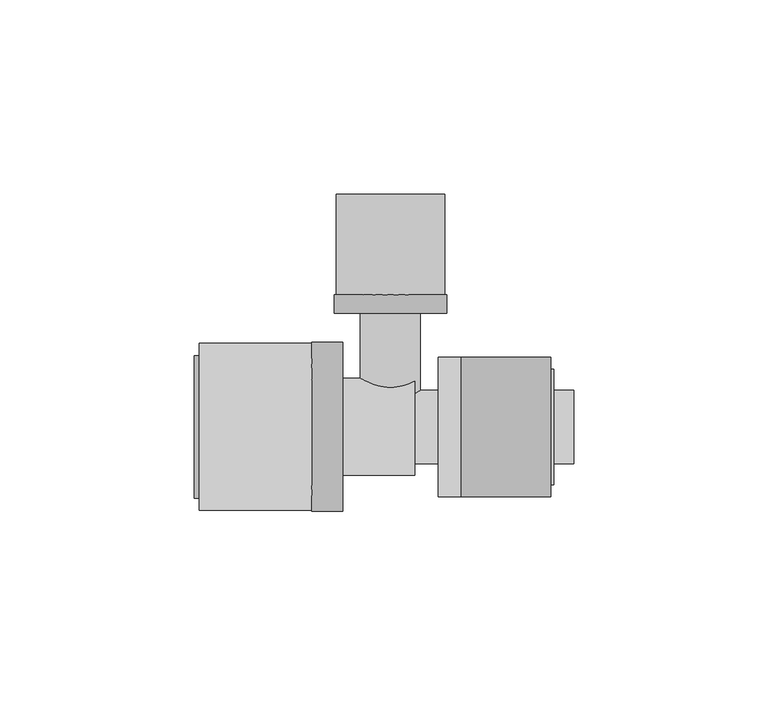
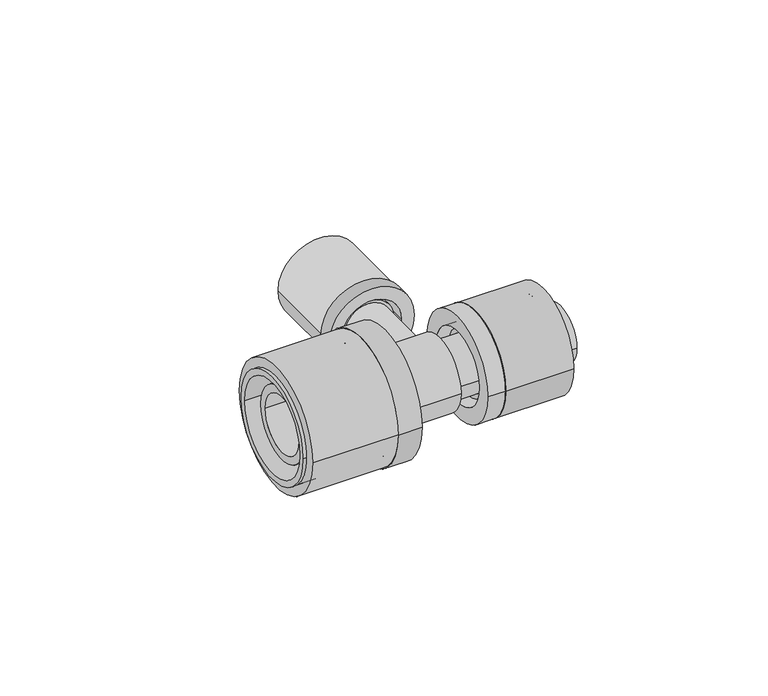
"""IFC4 building model written with IfcOpenShell, lengths in millimetres: pipe fitting geometry, FASTLOC_T-piece_LX : FSL T-Piece LX CZ."""

from ifc_helpers import new_model, si_unit, point, frame, origin, origin_2d, place, context, project, spatial, polyline, circle_curve, trimmed, segment, composite_curve, outline, extrude, source, transform, mapped, element, save
from ifc_brep_helpers import plane_surface, cylinder_surface, revolved_surface, advanced_brep


def pipe_fitting_f2600fd0(model_context):
    return source(origin(), model_context, "Body", "SolidModel", [
        extrude(outline(composite_curve([segment(trimmed(circle_curve(origin_2d(), 18.0), [point((-18.0, 0.0))], [point((18.0, 0.0))], False, "CARTESIAN"), True, "CONTINUOUS"), segment(trimmed(circle_curve(origin_2d(), 18.0), [point((18.0, 0.0))], [point((-18.0, 0.0))], False, "CARTESIAN"), True, "CONTINUOUS")], self_intersect=False), holes=[composite_curve([segment(trimmed(circle_curve(origin_2d(), 13.5), [point((-13.5, 0.0))], [point((13.5, 0.0))], True, "CARTESIAN"), True, "CONTINUOUS"), segment(trimmed(circle_curve(origin_2d(), 13.5), [point((13.5, 0.0))], [point((-13.5, 0.0))], True, "CARTESIAN"), True, "CONTINUOUS")], self_intersect=False)]), frame((18.3, 0.0, 0.0), z_axis=(1.0, 0.0, 0.0), x_axis=(0.0, 1.0, 0.0)), (0.0, 0.0, 1.0), 23.0),
        advanced_brep(
        [(18.3, 18.0, 0.0), (18.3, -18.0, 0.0), (12.3, -18.0, 0.0), (12.3, 18.0, 0.0), (42.1, 14.85, 0.0), (42.1, -14.85, 0.0), (18.3, -14.85, 0.0), (18.3, 14.85, 0.0), (12.3, 12.65, 0.0), (12.3, -12.65, 0.0), (42.1, -12.65, 0.0), (42.1, 12.65, 0.0)],
        [
            (0, 1, circle_curve(frame((18.3, 0.0, 0.0), z_axis=(-1.0, 0.0, 0.0), x_axis=(0.0, -1.0, 0.0)), 18.0)),
            (1, 2),
            (2, 3, circle_curve(frame((12.3, 0.0, 0.0), z_axis=(1.0, 0.0, 0.0), x_axis=(0.0, -1.0, 0.0)), 18.0)),
            (3, 0),
            (4, 5, circle_curve(frame((42.1, 0.0, 0.0), z_axis=(-1.0, 0.0, 0.0), x_axis=(0.0, -1.0, 0.0)), 14.85)),
            (5, 6),
            (6, 7, circle_curve(frame((18.3, 0.0, 0.0), z_axis=(1.0, 0.0, 0.0), x_axis=(0.0, -1.0, 0.0)), 14.85)),
            (7, 4),
            (8, 9, circle_curve(frame((12.3, 0.0, 0.0), z_axis=(-1.0, 0.0, 0.0), x_axis=(0.0, -1.0, 0.0)), 12.65)),
            (9, 10),
            (10, 11, circle_curve(frame((42.1, 0.0, 0.0), z_axis=(1.0, 0.0, 0.0), x_axis=(0.0, -1.0, 0.0)), 12.65)),
            (11, 8),
            (1, 0, circle_curve(frame((18.3, 0.0, 0.0), z_axis=(-1.0, 0.0, 0.0), x_axis=(0.0, 1.0, 0.0)), 18.0)),
            (3, 2, circle_curve(frame((12.3, 0.0, 0.0), z_axis=(1.0, 0.0, 0.0), x_axis=(0.0, 1.0, 0.0)), 18.0)),
            (6, 7, circle_curve(frame((18.3, 0.0, 0.0), z_axis=(-1.0, 0.0, 0.0), x_axis=(0.0, 1.0, 0.0)), 14.85)),
            (5, 4, circle_curve(frame((42.1, 0.0, 0.0), z_axis=(-1.0, 0.0, 0.0), x_axis=(0.0, 1.0, 0.0)), 14.85)),
            (10, 11, circle_curve(frame((42.1, 0.0, 0.0), z_axis=(-1.0, 0.0, 0.0), x_axis=(0.0, 1.0, 0.0)), 12.65)),
            (9, 8, circle_curve(frame((12.3, 0.0, 0.0), z_axis=(-1.0, 0.0, 0.0), x_axis=(0.0, 1.0, 0.0)), 12.65)),
        ],
        [
            cylinder_surface(frame((12.3, 0.0, 0.0), z_axis=(1.0, 0.0, 0.0), x_axis=(0.0, -1.0, 0.0)), 18.0),
            cylinder_surface(frame((12.3, 0.0, 0.0), z_axis=(1.0, 0.0, 0.0), x_axis=(0.0, -1.0, 0.0)), 14.85),
            revolved_surface(polyline([(42.1, -12.65, 0.0), (12.3, -12.65, 0.0)]), (12.3, 0.0, 0.0), (1.0, 0.0, 0.0)),
            cylinder_surface(frame((12.3, 0.0, 0.0), z_axis=(1.0, 0.0, 0.0), x_axis=(0.0, 1.0, 0.0)), 18.0),
            plane_surface(frame((18.3, 0.0, 0.0), z_axis=(1.0, 0.0, 0.0), x_axis=(0.0, 1.0, 0.0))),
            cylinder_surface(frame((12.3, 0.0, 0.0), z_axis=(1.0, 0.0, 0.0), x_axis=(0.0, 1.0, 0.0)), 14.85),
            plane_surface(frame((42.1, 0.0, 0.0), z_axis=(1.0, 0.0, 0.0), x_axis=(0.0, 1.0, 0.0))),
            revolved_surface(polyline([(42.1, 12.65, 0.0), (12.3, 12.65, 0.0)]), (12.3, 0.0, 0.0), (1.0, 0.0, 0.0)),
            plane_surface(frame((12.3, 0.0, 0.0), z_axis=(-1.0, 0.0, 0.0), x_axis=(0.0, 1.0, 0.0))),
        ],
        [
            (0, [[1, 2, 3, 4]]),
            (1, [[5, 6, 7, 8]]),
            (2, [[9, 10, 11, 12]]),
            (3, [[13, -4, 14, -2]]),
            (4, [[-13, -1], [15, -7]]),
            (5, [[16, -8, -15, -6]]),
            (6, [[-16, -5], [17, -11]]),
            (7, [[18, -12, -17, -10]]),
            (8, [[-14, -3], [-18, -9]]),
        ],
    ),
        extrude(outline(composite_curve([segment(trimmed(circle_curve(origin_2d(), 21.5), [point((21.5, 0.0))], [point((-21.5, 0.0))], False, "CARTESIAN"), True, "CONTINUOUS"), segment(trimmed(circle_curve(origin_2d(), 21.5), [point((-21.5, 0.0))], [point((21.5, 0.0))], False, "CARTESIAN"), True, "CONTINUOUS")], self_intersect=False), holes=[composite_curve([segment(trimmed(circle_curve(origin_2d(), 16.85), [point((16.85, 0.0))], [point((-16.85, 0.0))], True, "CARTESIAN"), True, "CONTINUOUS"), segment(trimmed(circle_curve(origin_2d(), 16.85), [point((-16.85, 0.0))], [point((16.85, 0.0))], True, "CARTESIAN"), True, "CONTINUOUS")], self_intersect=False)]), frame((-49.3, 0.0, 0.0), z_axis=(1.0, 0.0, 0.0), x_axis=(0.0, 1.0, 0.0)), (0.0, 0.0, 1.0), 29.0),
        advanced_brep(
        [(-20.3, -21.8, 0.0), (-20.3, 21.8, 0.0), (-12.3, 21.8, 0.0), (-12.3, -21.8, 0.0), (-50.6, -18.35, 0.0), (-50.6, 18.35, 0.0), (-20.3, 18.35, 0.0), (-20.3, -18.35, 0.0), (-12.3, -16.2, 0.0), (-12.3, 16.2, 0.0), (-50.6, 16.2, 0.0), (-50.6, -16.2, 0.0)],
        [
            (0, 1, circle_curve(frame((-20.3, 0.0, 0.0), z_axis=(1.0, 0.0, 0.0), x_axis=(0.0, 1.0, 0.0)), 21.8)),
            (1, 2),
            (2, 3, circle_curve(frame((-12.3, 0.0, 0.0), z_axis=(-1.0, 0.0, 0.0), x_axis=(0.0, 1.0, 0.0)), 21.8)),
            (3, 0),
            (4, 5, circle_curve(frame((-50.6, 0.0, 0.0), z_axis=(1.0, 0.0, 0.0), x_axis=(0.0, 1.0, 0.0)), 18.35)),
            (5, 6),
            (6, 7, circle_curve(frame((-20.3, 0.0, 0.0), z_axis=(-1.0, 0.0, 0.0), x_axis=(0.0, 1.0, 0.0)), 18.35)),
            (7, 4),
            (8, 9, circle_curve(frame((-12.3, 0.0, 0.0), z_axis=(1.0, 0.0, 0.0), x_axis=(0.0, 1.0, 0.0)), 16.2)),
            (9, 10),
            (10, 11, circle_curve(frame((-50.6, 0.0, 0.0), z_axis=(-1.0, 0.0, 0.0), x_axis=(0.0, 1.0, 0.0)), 16.2)),
            (11, 8),
            (1, 0, circle_curve(frame((-20.3, 0.0, 0.0), z_axis=(1.0, 0.0, 0.0), x_axis=(0.0, -1.0, 0.0)), 21.8)),
            (3, 2, circle_curve(frame((-12.3, 0.0, 0.0), z_axis=(-1.0, 0.0, 0.0), x_axis=(0.0, -1.0, 0.0)), 21.8)),
            (6, 7, circle_curve(frame((-20.3, 0.0, 0.0), z_axis=(1.0, 0.0, 0.0), x_axis=(0.0, -1.0, 0.0)), 18.35)),
            (5, 4, circle_curve(frame((-50.6, 0.0, 0.0), z_axis=(1.0, 0.0, 0.0), x_axis=(0.0, -1.0, 0.0)), 18.35)),
            (10, 11, circle_curve(frame((-50.6, 0.0, 0.0), z_axis=(1.0, 0.0, 0.0), x_axis=(0.0, -1.0, 0.0)), 16.2)),
            (9, 8, circle_curve(frame((-12.3, 0.0, 0.0), z_axis=(1.0, 0.0, 0.0), x_axis=(0.0, -1.0, 0.0)), 16.2)),
        ],
        [
            cylinder_surface(frame((-12.3, 0.0, 0.0), z_axis=(-1.0, 0.0, 0.0), x_axis=(0.0, 1.0, 0.0)), 21.8),
            cylinder_surface(frame((-12.3, 0.0, 0.0), z_axis=(-1.0, 0.0, 0.0), x_axis=(0.0, 1.0, 0.0)), 18.35),
            revolved_surface(polyline([(-50.599999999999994, 16.2, 0.0), (-12.3, 16.2, 0.0)]), (-12.3, 0.0, 0.0), (-1.0, 0.0, 0.0)),
            cylinder_surface(frame((-12.3, 0.0, 0.0), z_axis=(-1.0, 0.0, 0.0), x_axis=(0.0, -1.0, 0.0)), 21.8),
            plane_surface(frame((-20.3, 0.0, 0.0), z_axis=(-1.0, 0.0, 0.0), x_axis=(0.0, -1.0, 0.0))),
            cylinder_surface(frame((-12.3, 0.0, 0.0), z_axis=(-1.0, 0.0, 0.0), x_axis=(0.0, -1.0, 0.0)), 18.35),
            plane_surface(frame((-50.6, 0.0, 0.0), z_axis=(-1.0, 0.0, 0.0), x_axis=(0.0, -1.0, 0.0))),
            revolved_surface(polyline([(-50.599999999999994, -16.2, 0.0), (-12.3, -16.2, 0.0)]), (-12.3, 0.0, 0.0), (-1.0, 0.0, 0.0)),
            plane_surface(frame((-12.3, 0.0, 0.0), z_axis=(1.0, 0.0, 0.0), x_axis=(0.0, -1.0, 0.0))),
        ],
        [
            (0, [[1, 2, 3, 4]]),
            (1, [[5, 6, 7, 8]]),
            (2, [[9, 10, 11, 12]]),
            (3, [[13, -4, 14, -2]]),
            (4, [[-13, -1], [15, -7]]),
            (5, [[16, -8, -15, -6]]),
            (6, [[-16, -5], [17, -11]]),
            (7, [[18, -12, -17, -10]]),
            (8, [[-14, -3], [-18, -9]]),
        ],
    ),
        extrude(outline(composite_curve([segment(trimmed(circle_curve(origin_2d(), 14.0), [point((0.0, 14.0))], [point((0.0, -14.0))], False, "CARTESIAN"), True, "CONTINUOUS"), segment(trimmed(circle_curve(origin_2d(), 14.0), [point((0.0, -14.0))], [point((0.0, 14.0))], False, "CARTESIAN"), True, "CONTINUOUS")], self_intersect=False), holes=[composite_curve([segment(trimmed(circle_curve(origin_2d(), 10.7), [point((0.0, 10.7))], [point((0.0, -10.7))], True, "CARTESIAN"), True, "CONTINUOUS"), segment(trimmed(circle_curve(origin_2d(), 10.7), [point((0.0, -10.7))], [point((0.0, 10.7))], True, "CARTESIAN"), True, "CONTINUOUS")], self_intersect=False)]), frame((0.0, 34.0, 0.0), z_axis=(0.0, 1.0, 0.0), x_axis=(0.0, 0.0, 1.0)), (0.0, 0.0, 1.0), 26.0),
        advanced_brep(
        [(-14.5, 34.0, 0.0), (14.5, 34.0, 0.0), (14.5, 29.3, 0.0), (-14.5, 29.3, 0.0), (-11.85, 51.0, 0.0), (11.85, 51.0, 0.0), (11.85, 34.0, 0.0), (-11.85, 34.0, 0.0), (-10.15, 29.3, 0.0), (10.15, 29.3, 0.0), (10.15, 51.0, 0.0), (-10.15, 51.0, 0.0)],
        [
            (0, 1, circle_curve(frame((0.0, 34.0, 0.0), z_axis=(0.0, -1.0, 0.0), x_axis=(1.0, 0.0, 0.0)), 14.5)),
            (1, 2),
            (2, 3, circle_curve(frame((0.0, 29.3, 0.0), z_axis=(0.0, 1.0, 0.0), x_axis=(1.0, 0.0, 0.0)), 14.5)),
            (3, 0),
            (4, 5, circle_curve(frame((0.0, 51.0, 0.0), z_axis=(0.0, -1.0, 0.0), x_axis=(1.0, 0.0, 0.0)), 11.85)),
            (5, 6),
            (6, 7, circle_curve(frame((0.0, 34.0, 0.0), z_axis=(0.0, 1.0, 0.0), x_axis=(1.0, 0.0, 0.0)), 11.85)),
            (7, 4),
            (8, 9, circle_curve(frame((0.0, 29.3, 0.0), z_axis=(0.0, -1.0, 0.0), x_axis=(1.0, 0.0, 0.0)), 10.15)),
            (9, 10),
            (10, 11, circle_curve(frame((0.0, 51.0, 0.0), z_axis=(0.0, 1.0, 0.0), x_axis=(1.0, 0.0, 0.0)), 10.15)),
            (11, 8),
            (1, 0, circle_curve(frame((0.0, 34.0, 0.0), z_axis=(0.0, -1.0, 0.0), x_axis=(-1.0, 0.0, 0.0)), 14.5)),
            (3, 2, circle_curve(frame((0.0, 29.3, 0.0), z_axis=(0.0, 1.0, 0.0), x_axis=(-1.0, 0.0, 0.0)), 14.5)),
            (6, 7, circle_curve(frame((0.0, 34.0, 0.0), z_axis=(0.0, -1.0, 0.0), x_axis=(-1.0, 0.0, 0.0)), 11.85)),
            (5, 4, circle_curve(frame((0.0, 51.0, 0.0), z_axis=(0.0, -1.0, 0.0), x_axis=(-1.0, 0.0, 0.0)), 11.85)),
            (10, 11, circle_curve(frame((0.0, 51.0, 0.0), z_axis=(0.0, -1.0, 0.0), x_axis=(-1.0, 0.0, 0.0)), 10.15)),
            (9, 8, circle_curve(frame((0.0, 29.3, 0.0), z_axis=(0.0, -1.0, 0.0), x_axis=(-1.0, 0.0, 0.0)), 10.15)),
        ],
        [
            cylinder_surface(frame((0.0, 29.3, 0.0), z_axis=(0.0, 1.0, 0.0), x_axis=(1.0, 0.0, 0.0)), 14.5),
            cylinder_surface(frame((0.0, 29.3, 0.0), z_axis=(0.0, 1.0, 0.0), x_axis=(1.0, 0.0, 0.0)), 11.85),
            revolved_surface(polyline([(10.15, 51.0, 0.0), (10.15, 29.3, 0.0)]), (0.0, 29.3, 0.0), (0.0, 1.0, 0.0)),
            cylinder_surface(frame((0.0, 29.3, 0.0), z_axis=(0.0, 1.0, 0.0), x_axis=(-1.0, 0.0, 0.0)), 14.5),
            plane_surface(frame((0.0, 34.0, 0.0), z_axis=(0.0, 1.0, 0.0), x_axis=(-1.0, 0.0, 0.0))),
            cylinder_surface(frame((0.0, 29.3, 0.0), z_axis=(0.0, 1.0, 0.0), x_axis=(-1.0, 0.0, 0.0)), 11.85),
            plane_surface(frame((0.0, 51.0, 0.0), z_axis=(0.0, 1.0, 0.0), x_axis=(-1.0, 0.0, 0.0))),
            revolved_surface(polyline([(-10.15, 51.0, 0.0), (-10.15, 29.3, 0.0)]), (0.0, 29.3, 0.0), (0.0, 1.0, 0.0)),
            plane_surface(frame((0.0, 29.3, 0.0), z_axis=(0.0, -1.0, 0.0), x_axis=(-1.0, 0.0, 0.0))),
        ],
        [
            (0, [[1, 2, 3, 4]]),
            (1, [[5, 6, 7, 8]]),
            (2, [[9, 10, 11, 12]]),
            (3, [[13, -4, 14, -2]]),
            (4, [[-13, -1], [15, -7]]),
            (5, [[16, -8, -15, -6]]),
            (6, [[-16, -5], [17, -11]]),
            (7, [[18, -12, -17, -10]]),
            (8, [[-14, -3], [-18, -9]]),
        ],
    ),
        advanced_brep(
        [(15.5, 9.45, 0.0), (15.5, -9.45, 0.0), (6.25, -9.45, 0.0), (6.25, 9.45, 0.0), (18.3, 10.95, 0.0), (18.3, -10.95, 0.0), (15.5, -10.95, 0.0), (15.5, 10.95, 0.0), (47.3, 9.45, 0.0), (47.3, -9.45, 0.0), (18.3, -9.45, 0.0), (18.3, 9.45, 0.0), (4.0, 7.2, 0.0), (4.0, -7.2, 0.0), (47.3, -7.2, 0.0), (47.3, 7.2, 0.0), (-47.3, 9.85, 0.0), (-47.3, -9.85, 0.0), (4.0, -9.85, 0.0), (4.0, 9.85, 0.0), (-20.3, 12.5, 0.0), (-20.3, -12.5, 0.0), (-47.3, -12.5, 0.0), (-47.3, 12.5, 0.0), (-17.3, 14.1, 0.0), (-17.3, -14.1, 0.0), (-20.3, -14.1, 0.0), (-20.3, 14.1, 0.0), (6.25, 12.5, 0.0), (6.25, -12.5, 0.0), (-17.3, -12.5, 0.0), (-17.3, 12.5, 0.0)],
        [
            (0, 1, circle_curve(frame((15.5, 0.0, 0.0), z_axis=(-1.0, 0.0, 0.0), x_axis=(0.0, -1.0, 0.0)), 9.45)),
            (1, 2),
            (2, 3, circle_curve(frame((6.25, 0.0, 0.0), z_axis=(1.0, 0.0, 0.0), x_axis=(0.0, -1.0, 0.0)), 9.45)),
            (3, 0),
            (4, 5, circle_curve(frame((18.3, 0.0, 0.0), z_axis=(-1.0, 0.0, 0.0), x_axis=(0.0, -1.0, 0.0)), 10.95)),
            (5, 6),
            (6, 7, circle_curve(frame((15.5, 0.0, 0.0), z_axis=(1.0, 0.0, 0.0), x_axis=(0.0, -1.0, 0.0)), 10.95)),
            (7, 4),
            (8, 9, circle_curve(frame((47.3, 0.0, 0.0), z_axis=(-1.0, 0.0, 0.0), x_axis=(0.0, -1.0, 0.0)), 9.45)),
            (9, 10),
            (10, 11, circle_curve(frame((18.3, 0.0, 0.0), z_axis=(1.0, 0.0, 0.0), x_axis=(0.0, -1.0, 0.0)), 9.45)),
            (11, 8),
            (12, 13, circle_curve(frame((4.0, 0.0, 0.0), z_axis=(-1.0, 0.0, 0.0), x_axis=(0.0, -1.0, 0.0)), 7.2)),
            (13, 14),
            (14, 15, circle_curve(frame((47.3, 0.0, 0.0), z_axis=(1.0, 0.0, 0.0), x_axis=(0.0, -1.0, 0.0)), 7.2)),
            (15, 12),
            (16, 17, circle_curve(frame((-47.3, 0.0, 0.0), z_axis=(-1.0, 0.0, 0.0), x_axis=(0.0, -1.0, 0.0)), 9.85)),
            (17, 18),
            (18, 19, circle_curve(frame((4.0, 0.0, 0.0), z_axis=(1.0, 0.0, 0.0), x_axis=(0.0, -1.0, 0.0)), 9.85)),
            (19, 16),
            (20, 21, circle_curve(frame((-20.3, 0.0, 0.0), z_axis=(-1.0, 0.0, 0.0), x_axis=(0.0, -1.0, 0.0)), 12.5)),
            (21, 22),
            (22, 23, circle_curve(frame((-47.3, 0.0, 0.0), z_axis=(1.0, 0.0, 0.0), x_axis=(0.0, -1.0, 0.0)), 12.5)),
            (23, 20),
            (24, 25, circle_curve(frame((-17.3, 0.0, 0.0), z_axis=(-1.0, 0.0, 0.0), x_axis=(0.0, -1.0, 0.0)), 14.1)),
            (25, 26),
            (26, 27, circle_curve(frame((-20.3, 0.0, 0.0), z_axis=(1.0, 0.0, 0.0), x_axis=(0.0, -1.0, 0.0)), 14.1)),
            (27, 24),
            (28, 29, circle_curve(frame((6.25, 0.0, 0.0), z_axis=(-1.0, 0.0, 0.0), x_axis=(0.0, -1.0, 0.0)), 12.5)),
            (29, 30),
            (30, 31, circle_curve(frame((-17.3, 0.0, 0.0), z_axis=(1.0, 0.0, 0.0), x_axis=(0.0, -1.0, 0.0)), 12.5)),
            (31, 28),
            (28, 29, circle_curve(frame((6.25, 0.0, 0.0), z_axis=(1.0, 0.0, 0.0), x_axis=(0.0, 1.0, 0.0)), 12.5)),
            (2, 3, circle_curve(frame((6.25, 0.0, 0.0), z_axis=(-1.0, 0.0, 0.0), x_axis=(0.0, 1.0, 0.0)), 9.45)),
            (1, 0, circle_curve(frame((15.5, 0.0, 0.0), z_axis=(-1.0, 0.0, 0.0), x_axis=(0.0, 1.0, 0.0)), 9.45)),
            (6, 7, circle_curve(frame((15.5, 0.0, 0.0), z_axis=(-1.0, 0.0, 0.0), x_axis=(0.0, 1.0, 0.0)), 10.95)),
            (5, 4, circle_curve(frame((18.3, 0.0, 0.0), z_axis=(-1.0, 0.0, 0.0), x_axis=(0.0, 1.0, 0.0)), 10.95)),
            (10, 11, circle_curve(frame((18.3, 0.0, 0.0), z_axis=(-1.0, 0.0, 0.0), x_axis=(0.0, 1.0, 0.0)), 9.45)),
            (9, 8, circle_curve(frame((47.3, 0.0, 0.0), z_axis=(-1.0, 0.0, 0.0), x_axis=(0.0, 1.0, 0.0)), 9.45)),
            (14, 15, circle_curve(frame((47.3, 0.0, 0.0), z_axis=(-1.0, 0.0, 0.0), x_axis=(0.0, 1.0, 0.0)), 7.2)),
            (13, 12, circle_curve(frame((4.0, 0.0, 0.0), z_axis=(-1.0, 0.0, 0.0), x_axis=(0.0, 1.0, 0.0)), 7.2)),
            (18, 19, circle_curve(frame((4.0, 0.0, 0.0), z_axis=(-1.0, 0.0, 0.0), x_axis=(0.0, 1.0, 0.0)), 9.85)),
            (17, 16, circle_curve(frame((-47.3, 0.0, 0.0), z_axis=(-1.0, 0.0, 0.0), x_axis=(0.0, 1.0, 0.0)), 9.85)),
            (22, 23, circle_curve(frame((-47.3, 0.0, 0.0), z_axis=(-1.0, 0.0, 0.0), x_axis=(0.0, 1.0, 0.0)), 12.5)),
            (21, 20, circle_curve(frame((-20.3, 0.0, 0.0), z_axis=(-1.0, 0.0, 0.0), x_axis=(0.0, 1.0, 0.0)), 12.5)),
            (26, 27, circle_curve(frame((-20.3, 0.0, 0.0), z_axis=(-1.0, 0.0, 0.0), x_axis=(0.0, 1.0, 0.0)), 14.1)),
            (25, 24, circle_curve(frame((-17.3, 0.0, 0.0), z_axis=(-1.0, 0.0, 0.0), x_axis=(0.0, 1.0, 0.0)), 14.1)),
            (30, 31, circle_curve(frame((-17.3, 0.0, 0.0), z_axis=(-1.0, 0.0, 0.0), x_axis=(0.0, 1.0, 0.0)), 12.5)),
        ],
        [
            cylinder_surface(frame((0.0, 0.0, 0.0), z_axis=(1.0, 0.0, 0.0), x_axis=(0.0, -1.0, 0.0)), 9.45),
            cylinder_surface(frame((0.0, 0.0, 0.0), z_axis=(1.0, 0.0, 0.0), x_axis=(0.0, -1.0, 0.0)), 10.95),
            revolved_surface(polyline([(47.3, -7.2, 0.0), (4.0, -7.2, 0.0)]), (0.0, 0.0, 0.0), (1.0, 0.0, 0.0)),
            revolved_surface(polyline([(4.0, -9.85, 0.0), (-47.3, -9.85, 0.0)]), (0.0, 0.0, 0.0), (1.0, 0.0, 0.0)),
            cylinder_surface(frame((0.0, 0.0, 0.0), z_axis=(1.0, 0.0, 0.0), x_axis=(0.0, -1.0, 0.0)), 12.5),
            cylinder_surface(frame((0.0, 0.0, 0.0), z_axis=(1.0, 0.0, 0.0), x_axis=(0.0, -1.0, 0.0)), 14.1),
            plane_surface(frame((6.25, 0.0, 0.0), z_axis=(1.0, 0.0, 0.0), x_axis=(0.0, 1.0, 0.0))),
            cylinder_surface(frame((0.0, 0.0, 0.0), z_axis=(1.0, 0.0, 0.0), x_axis=(0.0, 1.0, 0.0)), 9.45),
            plane_surface(frame((15.5, 0.0, 0.0), z_axis=(-1.0, 0.0, 0.0), x_axis=(0.0, 1.0, 0.0))),
            cylinder_surface(frame((0.0, 0.0, 0.0), z_axis=(1.0, 0.0, 0.0), x_axis=(0.0, 1.0, 0.0)), 10.95),
            plane_surface(frame((18.3, 0.0, 0.0), z_axis=(1.0, 0.0, 0.0), x_axis=(0.0, 1.0, 0.0))),
            plane_surface(frame((47.3, 0.0, 0.0), z_axis=(1.0, 0.0, 0.0), x_axis=(0.0, 1.0, 0.0))),
            revolved_surface(polyline([(47.3, 7.2, 0.0), (4.0, 7.2, 0.0)]), (0.0, 0.0, 0.0), (1.0, 0.0, 0.0)),
            plane_surface(frame((4.0, 0.0, 0.0), z_axis=(-1.0, 0.0, 0.0), x_axis=(0.0, 1.0, 0.0))),
            revolved_surface(polyline([(4.0, 9.85, 0.0), (-47.3, 9.85, 0.0)]), (0.0, 0.0, 0.0), (1.0, 0.0, 0.0)),
            plane_surface(frame((-47.3, 0.0, 0.0), z_axis=(-1.0, 0.0, 0.0), x_axis=(0.0, 1.0, 0.0))),
            cylinder_surface(frame((0.0, 0.0, 0.0), z_axis=(1.0, 0.0, 0.0), x_axis=(0.0, 1.0, 0.0)), 12.5),
            plane_surface(frame((-20.3, 0.0, 0.0), z_axis=(-1.0, 0.0, 0.0), x_axis=(0.0, 1.0, 0.0))),
            cylinder_surface(frame((0.0, 0.0, 0.0), z_axis=(1.0, 0.0, 0.0), x_axis=(0.0, 1.0, 0.0)), 14.1),
            plane_surface(frame((-17.3, 0.0, 0.0), z_axis=(1.0, 0.0, 0.0), x_axis=(0.0, 1.0, 0.0))),
        ],
        [
            (0, [[1, 2, 3, 4]]),
            (1, [[5, 6, 7, 8]]),
            (0, [[9, 10, 11, 12]]),
            (2, [[13, 14, 15, 16]]),
            (3, [[17, 18, 19, 20]]),
            (4, [[21, 22, 23, 24]]),
            (5, [[25, 26, 27, 28]]),
            (4, [[29, 30, 31, 32]]),
            (6, [[33, -29], [34, -3]]),
            (7, [[35, -4, -34, -2]]),
            (8, [[36, -7], [-35, -1]]),
            (9, [[37, -8, -36, -6]]),
            (10, [[-37, -5], [38, -11]]),
            (7, [[39, -12, -38, -10]]),
            (11, [[-39, -9], [40, -15]]),
            (12, [[41, -16, -40, -14]]),
            (13, [[42, -19], [-41, -13]]),
            (14, [[43, -20, -42, -18]]),
            (15, [[44, -23], [-43, -17]]),
            (16, [[45, -24, -44, -22]]),
            (17, [[46, -27], [-45, -21]]),
            (18, [[47, -28, -46, -26]]),
            (19, [[-47, -25], [48, -31]]),
            (16, [[-33, -32, -48, -30]]),
        ],
    ),
        advanced_brep(
        [(5.75, 51.4, 0.0), (-5.75, 51.4, 0.0), (-5.75, 0.0, 0.0), (5.75, 0.0, 0.0), (7.75, 0.0, 0.0), (-7.75, 0.0, 0.0), (-7.75, 31.33, 0.0), (7.75, 31.33, 0.0), (8.8, 31.33, 0.0), (-8.8, 31.33, 0.0), (-8.8, 34.0, 0.0), (8.8, 34.0, 0.0), (7.75, 34.0, 0.0), (-7.75, 34.0, 0.0), (-7.75, 51.4, 0.0), (7.75, 51.4, 0.0)],
        [
            (0, 1, circle_curve(frame((0.0, 51.4, 0.0), z_axis=(0.0, 1.0, 0.0), x_axis=(-1.0, 0.0, 0.0)), 5.75)),
            (1, 2),
            (2, 3, circle_curve(frame((0.0, 0.0, 0.0), z_axis=(0.0, -1.0, 0.0), x_axis=(-1.0, 0.0, 0.0)), 5.75)),
            (3, 0),
            (4, 5, circle_curve(frame((0.0, 0.0, 0.0), z_axis=(0.0, 1.0, 0.0), x_axis=(-1.0, 0.0, 0.0)), 7.75)),
            (5, 6),
            (6, 7, circle_curve(frame((0.0, 31.33, 0.0), z_axis=(0.0, -1.0, 0.0), x_axis=(-1.0, 0.0, 0.0)), 7.75)),
            (7, 4),
            (8, 9, circle_curve(frame((0.0, 31.33, 0.0), z_axis=(0.0, 1.0, 0.0), x_axis=(-1.0, 0.0, 0.0)), 8.8)),
            (9, 10),
            (10, 11, circle_curve(frame((0.0, 34.0, 0.0), z_axis=(0.0, -1.0, 0.0), x_axis=(-1.0, 0.0, 0.0)), 8.8)),
            (11, 8),
            (12, 13, circle_curve(frame((0.0, 34.0, 0.0), z_axis=(0.0, 1.0, 0.0), x_axis=(-1.0, 0.0, 0.0)), 7.75)),
            (13, 14),
            (14, 15, circle_curve(frame((0.0, 51.4, 0.0), z_axis=(0.0, -1.0, 0.0), x_axis=(-1.0, 0.0, 0.0)), 7.75)),
            (15, 12),
            (1, 0, circle_curve(frame((0.0, 51.4, 0.0), z_axis=(0.0, 1.0, 0.0), x_axis=(1.0, 0.0, 0.0)), 5.75)),
            (3, 2, circle_curve(frame((0.0, 0.0, 0.0), z_axis=(0.0, -1.0, 0.0), x_axis=(1.0, 0.0, 0.0)), 5.75)),
            (4, 5, circle_curve(frame((0.0, 0.0, 0.0), z_axis=(0.0, -1.0, 0.0), x_axis=(1.0, 0.0, 0.0)), 7.75)),
            (7, 6, circle_curve(frame((0.0, 31.33, 0.0), z_axis=(0.0, -1.0, 0.0), x_axis=(1.0, 0.0, 0.0)), 7.75)),
            (8, 9, circle_curve(frame((0.0, 31.33, 0.0), z_axis=(0.0, -1.0, 0.0), x_axis=(1.0, 0.0, 0.0)), 8.8)),
            (11, 10, circle_curve(frame((0.0, 34.0, 0.0), z_axis=(0.0, -1.0, 0.0), x_axis=(1.0, 0.0, 0.0)), 8.8)),
            (12, 13, circle_curve(frame((0.0, 34.0, 0.0), z_axis=(0.0, -1.0, 0.0), x_axis=(1.0, 0.0, 0.0)), 7.75)),
            (15, 14, circle_curve(frame((0.0, 51.4, 0.0), z_axis=(0.0, -1.0, 0.0), x_axis=(1.0, 0.0, 0.0)), 7.75)),
        ],
        [
            revolved_surface(polyline([(-5.75, 0.0, 0.0), (-5.75, 51.4, 0.0)]), (0.0, 0.0, 0.0), (0.0, -1.0, 0.0)),
            cylinder_surface(frame((0.0, 0.0, 0.0), z_axis=(0.0, -1.0, 0.0), x_axis=(-1.0, 0.0, 0.0)), 7.75),
            cylinder_surface(frame((0.0, 0.0, 0.0), z_axis=(0.0, -1.0, 0.0), x_axis=(-1.0, 0.0, 0.0)), 8.8),
            revolved_surface(polyline([(5.75, 0.0, 0.0), (5.75, 51.4, 0.0)]), (0.0, 0.0, 0.0), (0.0, -1.0, 0.0)),
            plane_surface(frame((0.0, 0.0, 0.0), z_axis=(0.0, -1.0, 0.0), x_axis=(1.0, 0.0, 0.0))),
            cylinder_surface(frame((0.0, 0.0, 0.0), z_axis=(0.0, -1.0, 0.0), x_axis=(1.0, 0.0, 0.0)), 7.75),
            plane_surface(frame((0.0, 31.33, 0.0), z_axis=(0.0, -1.0, 0.0), x_axis=(1.0, 0.0, 0.0))),
            cylinder_surface(frame((0.0, 0.0, 0.0), z_axis=(0.0, -1.0, 0.0), x_axis=(1.0, 0.0, 0.0)), 8.8),
            plane_surface(frame((0.0, 34.0, 0.0), z_axis=(0.0, 1.0, 0.0), x_axis=(1.0, 0.0, 0.0))),
            plane_surface(frame((0.0, 51.4, 0.0), z_axis=(0.0, 1.0, 0.0), x_axis=(1.0, 0.0, 0.0))),
        ],
        [
            (0, [[1, 2, 3, 4]]),
            (1, [[5, 6, 7, 8]]),
            (2, [[9, 10, 11, 12]]),
            (1, [[13, 14, 15, 16]]),
            (3, [[17, -4, 18, -2]]),
            (4, [[19, -5], [-18, -3]]),
            (5, [[-19, -8, 20, -6]]),
            (6, [[21, -9], [-20, -7]]),
            (7, [[-21, -12, 22, -10]]),
            (8, [[-22, -11], [23, -13]]),
            (5, [[-23, -16, 24, -14]]),
            (9, [[-24, -15], [-17, -1]]),
        ],
    ),
    ])


if __name__ == "__main__":
    model = new_model("IFC4")
    model_context = context("Model", 3, world=origin())
    ifc_project = project(units=[si_unit("LENGTHUNIT", "METRE", prefix="MILLI")], contexts=[model_context])
    site = spatial("IfcSite", under=ifc_project)
    building = spatial("IfcBuilding", under=site)
    placement = place(None, origin())
    pipe_fitting_shape = pipe_fitting_f2600fd0(model_context)
    element("IfcPipeFitting", 1, ObjectType="FASTLOC_T-piece_LX : FSL T-Piece LX CZ", at=placement, inside=building, context=model_context, shape_type="MappedRepresentation", body=[
        mapped(pipe_fitting_shape, transform((0.0, 0.0, 0.0), x_axis=(1.0, 0.0, 0.0), y_axis=(0.0, 1.0, 0.0), z_axis=(0.0, 0.0, 1.0))),
    ])
    save(model, "model.ifc")
